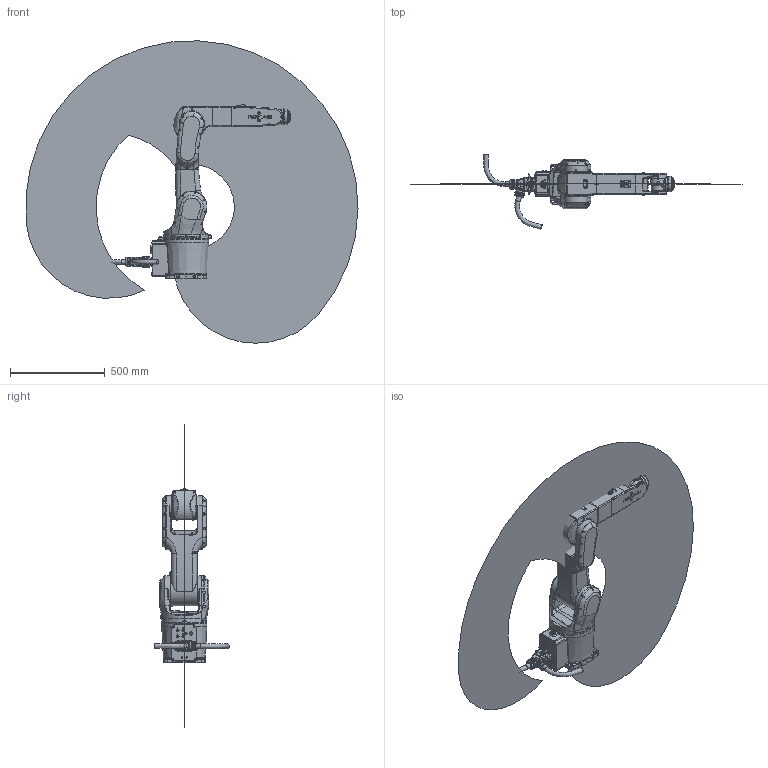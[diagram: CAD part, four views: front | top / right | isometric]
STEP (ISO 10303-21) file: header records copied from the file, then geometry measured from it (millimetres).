
FILE_DESCRIPTION(/* description */ (''),/* implementation_level */ '2;1');
FILE_NAME(/* name */ 'XB7s-R906-XBC5线束 简化模型(20250613).stp',/* time_stamp */ '2025-06-13T17:08:58+08:00',/* author */ (''),/* organization */ (''),/* preprocessor_version */ 'ST-DEVELOPER v16',/* originating_system */ 'SIEMENS PLM Software NX 10.0',/* authorisation */ '');
FILE_SCHEMA (('AUTOMOTIVE_DESIGN { 1 0 10303 214 3 1 1 1 }'));
Products named in the file (9): XB7&12-3Dwork-B; XB12-shuchu-A; XB7&12-shouwan-A; XB7&12-xiaobiqian-Blogo; XB7&12-xiaobihou-A; XB7&12-dabi-B; XB7&12-yao-A; XB7&12-base-B; XB7s-R906-XBC5线束 简化模型(
20250613)
Assembly tree (8 placements, depth 2):
  XB7s-R906-XBC5线束 简化模型(
20250613)
    XB7&12-base-B
    XB7&12-yao-A
    XB7&12-dabi-B
    XB7&12-xiaobihou-A
    XB7&12-xiaobiqian-Blogo
    XB7&12-shouwan-A
    XB12-shuchu-A
    XB7&12-3Dwork-B
Bounding box: 1750.79 x 393.43 x 1594.95 mm (x, y, z)
Volume: 33439364 mm3; surface area: 3185528.3 mm2
Topology: 9 solids, 23 shells, 3834 faces, 9109 edges, 5474 vertices
Faces by surface type: plane 1333, cylinder 883, bspline 721, cone 366, torus 296, extrusion 201, sphere 34
Full cylindrical faces by diameter (mm): 2.874 x1, 3.3 x8, 4.2 x12, 4.75 x4, 4.826 x1, 5 x3, 5.1 x4, 5.13 x8, 5.5 x83, 6 x2, 6.725 x4, 7 x21, 8.5 x10, 9.5 x3, 13 x1, 13.5 x4, 14 x1, 15 x6, 18.5 x1, 20 x2, 22 x1, 25 x2, 40 x1, 41.226 x2, 45 x1, 47.5 x2, 49.55 x4, 50 x2, 55 x2, 59 x2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
Entity records: 147755 total; most frequent: CARTESIAN_POINT 68121, ORIENTED_EDGE 16920, DIRECTION 15087, EDGE_CURVE 8463, AXIS2_PLACEMENT_3D 5936, VERTEX_POINT 5306, EDGE_LOOP 4444, ADVANCED_FACE 3826
